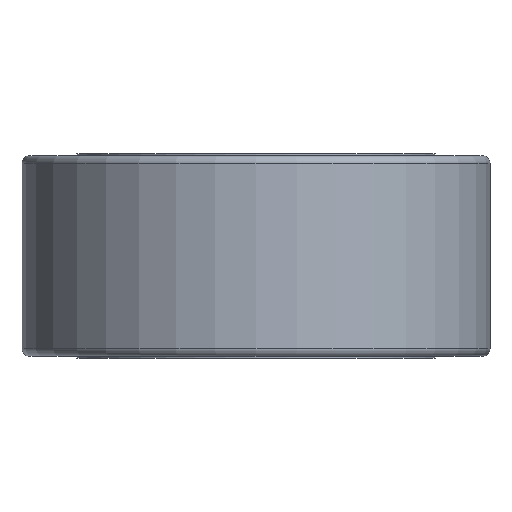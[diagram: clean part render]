
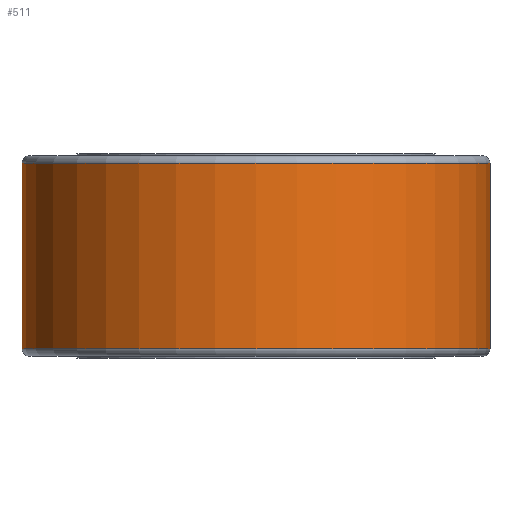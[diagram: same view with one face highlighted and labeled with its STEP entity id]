
A CAD part, front view. The second image highlights one B-rep face of the part: STEP entity #511.
In plain terms, the highlighted cylindrical face has radius 120 mm (diameter 240 mm), a partial arc.
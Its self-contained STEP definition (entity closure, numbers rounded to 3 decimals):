
#25 = DIRECTION ( 'NONE',  ( 0., 0., -1. ) ) ;
#39 = CARTESIAN_POINT ( 'NONE',  ( -120., 0., 103. ) ) ;
#55 = CARTESIAN_POINT ( 'NONE',  ( 0., 0., 99. ) ) ;
#56 = ORIENTED_EDGE ( 'NONE', *, *, #321, .F. ) ;
#57 = ORIENTED_EDGE ( 'NONE', *, *, #384, .T. ) ;
#82 = VECTOR ( 'NONE', #492, 1000. ) ;
#93 = LINE ( 'NONE', #39, #208 ) ;
#96 = CARTESIAN_POINT ( 'NONE',  ( 120., 0., 4. ) ) ;
#99 = DIRECTION ( 'NONE',  ( 1., 0., 0. ) ) ;
#119 = CARTESIAN_POINT ( 'NONE',  ( -120., 0., 4. ) ) ;
#160 = CARTESIAN_POINT ( 'NONE',  ( 0., 0., 103. ) ) ;
#174 = ORIENTED_EDGE ( 'NONE', *, *, #502, .T. ) ;
#176 = CARTESIAN_POINT ( 'NONE',  ( 120., 0., 99. ) ) ;
#184 = CARTESIAN_POINT ( 'NONE',  ( 120., 0., 103. ) ) ;
#204 = DIRECTION ( 'NONE',  ( 0., 0., 1. ) ) ;
#208 = VECTOR ( 'NONE', #312, 1000. ) ;
#216 = CARTESIAN_POINT ( 'NONE',  ( -120., 0., 99. ) ) ;
#219 = VERTEX_POINT ( 'NONE', #176 ) ;
#261 = ORIENTED_EDGE ( 'NONE', *, *, #288, .T. ) ;
#274 = CIRCLE ( 'NONE', #564, 120. ) ;
#276 = CYLINDRICAL_SURFACE ( 'NONE', #550, 120. ) ;
#285 = VERTEX_POINT ( 'NONE', #216 ) ;
#288 = EDGE_CURVE ( 'NONE', #285, #509, #93, .T. ) ;
#312 = DIRECTION ( 'NONE',  ( 0., 0., -1. ) ) ;
#321 = EDGE_CURVE ( 'NONE', #219, #369, #565, .T. ) ;
#368 = DIRECTION ( 'NONE',  ( 0., 0., -1. ) ) ;
#369 = VERTEX_POINT ( 'NONE', #96 ) ;
#384 = EDGE_CURVE ( 'NONE', #219, #285, #274, .T. ) ;
#404 = FACE_OUTER_BOUND ( 'NONE', #520, .T. ) ;
#463 = AXIS2_PLACEMENT_3D ( 'NONE', #475, #204, #514 ) ;
#475 = CARTESIAN_POINT ( 'NONE',  ( 0., 0., 4. ) ) ;
#492 = DIRECTION ( 'NONE',  ( 0., 0., -1. ) ) ;
#502 = EDGE_CURVE ( 'NONE', #509, #369, #571, .T. ) ;
#509 = VERTEX_POINT ( 'NONE', #119 ) ;
#511 = ADVANCED_FACE ( 'NONE', ( #404 ), #276, .T. ) ;
#514 = DIRECTION ( 'NONE',  ( 1., 0., 0. ) ) ;
#520 = EDGE_LOOP ( 'NONE', ( #56, #57, #261, #174 ) ) ;
#550 = AXIS2_PLACEMENT_3D ( 'NONE', #160, #25, #558 ) ;
#558 = DIRECTION ( 'NONE',  ( -1., 0., 0. ) ) ;
#564 = AXIS2_PLACEMENT_3D ( 'NONE', #55, #368, #99 ) ;
#565 = LINE ( 'NONE', #184, #82 ) ;
#571 = CIRCLE ( 'NONE', #463, 120. ) ;
